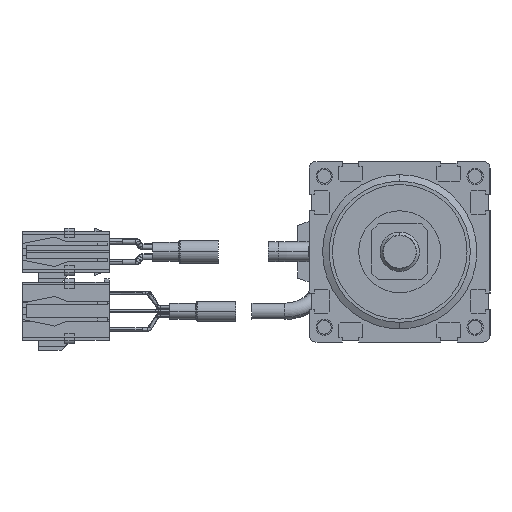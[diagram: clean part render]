
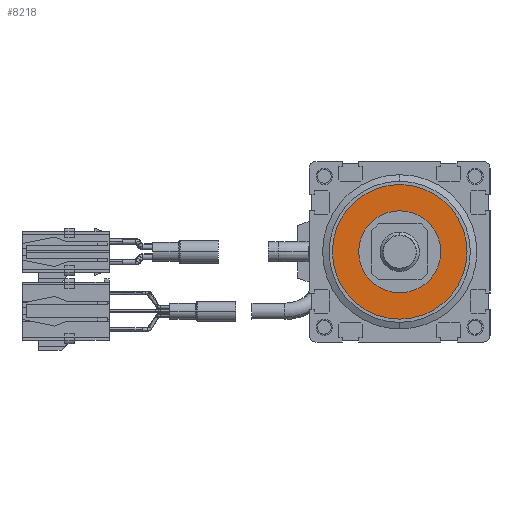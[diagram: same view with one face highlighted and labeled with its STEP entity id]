
A CAD part, left-side view. The second image highlights one B-rep face of the part: STEP entity #8218.
In plain terms, the highlighted planar face has unit normal (-1, 0, 0).
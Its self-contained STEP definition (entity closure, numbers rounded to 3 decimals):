
#1965=CARTESIAN_POINT('',(-391.,0.,0.));
#1966=DIRECTION('',(1.,0.,0.));
#1967=DIRECTION('',(0.,1.,0.));
#1968=AXIS2_PLACEMENT_3D('',#1965,#1966,#1967);
#1970=CARTESIAN_POINT('',(-391.,0.,0.));
#1971=DIRECTION('',(1.,0.,0.));
#1972=DIRECTION('',(0.,-1.,0.));
#1973=AXIS2_PLACEMENT_3D('',#1970,#1971,#1972);
#1975=CARTESIAN_POINT('',(-391.,0.,0.));
#1976=DIRECTION('',(-1.,0.,0.));
#1977=DIRECTION('',(0.,0.,1.));
#1978=AXIS2_PLACEMENT_3D('',#1975,#1976,#1977);
#1980=CARTESIAN_POINT('',(-391.,0.,0.));
#1981=DIRECTION('',(-1.,0.,0.));
#1982=DIRECTION('',(0.,0.,-1.));
#1983=AXIS2_PLACEMENT_3D('',#1980,#1981,#1982);
#4225=CARTESIAN_POINT('',(-391.,20.5,0.));
#4226=VERTEX_POINT('',#4225);
#4227=CARTESIAN_POINT('',(-391.,-20.5,0.));
#4228=VERTEX_POINT('',#4227);
#5359=CARTESIAN_POINT('',(-391.,0.,12.5));
#5360=CARTESIAN_POINT('',(-391.,0.,-12.5));
#5361=VERTEX_POINT('',#5359);
#5362=VERTEX_POINT('',#5360);
#8203=CARTESIAN_POINT('',(-391.,0.,0.));
#8204=DIRECTION('',(1.,0.,0.));
#8205=DIRECTION('',(0.,1.,0.));
#8206=AXIS2_PLACEMENT_3D('',#8203,#8204,#8205);
#8207=PLANE('',#8206);
#8208=ORIENTED_EDGE('',*,*,#8183,.T.);
#8209=ORIENTED_EDGE('',*,*,#8197,.T.);
#8210=EDGE_LOOP('',(#8208,#8209));
#8211=FACE_OUTER_BOUND('',#8210,.F.);
#8213=ORIENTED_EDGE('',*,*,#8212,.T.);
#8215=ORIENTED_EDGE('',*,*,#8214,.T.);
#8216=EDGE_LOOP('',(#8213,#8215));
#8217=FACE_BOUND('',#8216,.F.);
#8218=ADVANCED_FACE('',(#8211,#8217),#8207,.F.);
#1969=CIRCLE('',#1968,20.5);
#1974=CIRCLE('',#1973,20.5);
#1979=CIRCLE('',#1978,12.5);
#1984=CIRCLE('',#1983,12.5);
#8183=EDGE_CURVE('',#4226,#4228,#1969,.T.);
#8197=EDGE_CURVE('',#4228,#4226,#1974,.T.);
#8212=EDGE_CURVE('',#5361,#5362,#1979,.T.);
#8214=EDGE_CURVE('',#5362,#5361,#1984,.T.);
